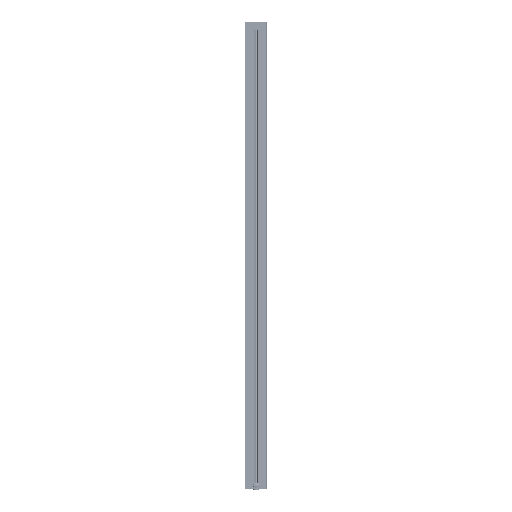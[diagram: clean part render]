
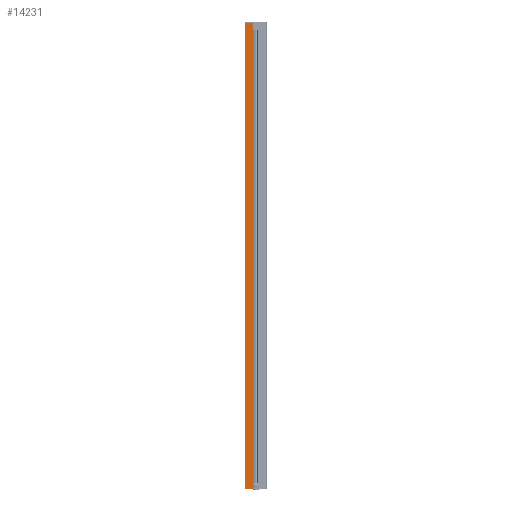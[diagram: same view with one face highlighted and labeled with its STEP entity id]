
A CAD part, left-side view. The second image highlights one B-rep face of the part: STEP entity #14231.
In plain terms, the highlighted planar face has unit normal (-1, 0, 0).
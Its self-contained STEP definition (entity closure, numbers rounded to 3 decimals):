
#2455 = CARTESIAN_POINT ( 'NONE',  ( -16., 8.776, -987.3 ) ) ;
#3113 = DIRECTION ( 'NONE',  ( 0., 1., 0. ) ) ;
#4687 = CARTESIAN_POINT ( 'NONE',  ( -16., 46.5, 1017. ) ) ;
#4765 = VECTOR ( 'NONE', #12847, 1000. ) ;
#4794 = ORIENTED_EDGE ( 'NONE', *, *, #30055, .T. ) ;
#5069 = EDGE_CURVE ( 'NONE', #33399, #11676, #27621, .T. ) ;
#7439 = LINE ( 'NONE', #24710, #26256 ) ;
#8435 = VERTEX_POINT ( 'NONE', #36489 ) ;
#8573 = ORIENTED_EDGE ( 'NONE', *, *, #14966, .F. ) ;
#9397 = VECTOR ( 'NONE', #18032, 1000. ) ;
#9480 = LINE ( 'NONE', #12206, #9397 ) ;
#9649 = ORIENTED_EDGE ( 'NONE', *, *, #21843, .T. ) ;
#9879 = DIRECTION ( 'NONE',  ( 1., 0., 0. ) ) ;
#9960 = CARTESIAN_POINT ( 'NONE',  ( -16., 8.776, 987.3 ) ) ;
#11506 = VECTOR ( 'NONE', #30159, 1000. ) ;
#11676 = VERTEX_POINT ( 'NONE', #26813 ) ;
#12206 = CARTESIAN_POINT ( 'NONE',  ( -16., 13.85, 1017. ) ) ;
#12218 = VERTEX_POINT ( 'NONE', #2455 ) ;
#12256 = ORIENTED_EDGE ( 'NONE', *, *, #29435, .T. ) ;
#12619 = PLANE ( 'NONE',  #16800 ) ;
#12847 = DIRECTION ( 'NONE',  ( 0., 0., -1. ) ) ;
#14231 = ADVANCED_FACE ( 'NONE', ( #29915 ), #12619, .F. ) ;
#14966 = EDGE_CURVE ( 'NONE', #23826, #20323, #26336, .T. ) ;
#15010 = VECTOR ( 'NONE', #37638, 1000. ) ;
#15207 = CARTESIAN_POINT ( 'NONE',  ( -16., 13.85, -1017. ) ) ;
#16183 = VECTOR ( 'NONE', #23940, 1000. ) ;
#16484 = EDGE_CURVE ( 'NONE', #30632, #23826, #9480, .T. ) ;
#16800 = AXIS2_PLACEMENT_3D ( 'NONE', #29726, #9879, #3113 ) ;
#17591 = VECTOR ( 'NONE', #37040, 1000. ) ;
#18032 = DIRECTION ( 'NONE',  ( 0., 0., -1. ) ) ;
#18130 = EDGE_CURVE ( 'NONE', #24624, #30632, #7439, .T. ) ;
#19447 = LINE ( 'NONE', #4687, #4765 ) ;
#20323 = VERTEX_POINT ( 'NONE', #9960 ) ;
#21240 = CARTESIAN_POINT ( 'NONE',  ( -16., 13.85, -987.3 ) ) ;
#21843 = EDGE_CURVE ( 'NONE', #24624, #8435, #19447, .T. ) ;
#22258 = ORIENTED_EDGE ( 'NONE', *, *, #32586, .T. ) ;
#22520 = CARTESIAN_POINT ( 'NONE',  ( -16., 8.776, 1017. ) ) ;
#23826 = VERTEX_POINT ( 'NONE', #35020 ) ;
#23940 = DIRECTION ( 'NONE',  ( 0., -1., 0. ) ) ;
#24624 = VERTEX_POINT ( 'NONE', #34340 ) ;
#24710 = CARTESIAN_POINT ( 'NONE',  ( -16., 8.487, 1017. ) ) ;
#24791 = CARTESIAN_POINT ( 'NONE',  ( -16., 13.85, 1017. ) ) ;
#25543 = CARTESIAN_POINT ( 'NONE',  ( -16., 8.487, -1016.9 ) ) ;
#26256 = VECTOR ( 'NONE', #33301, 1000. ) ;
#26336 = LINE ( 'NONE', #28681, #15010 ) ;
#26813 = CARTESIAN_POINT ( 'NONE',  ( -16., 13.85, -987.3 ) ) ;
#26879 = EDGE_LOOP ( 'NONE', ( #34287, #4794, #12256, #8573, #31800, #35909, #9649, #22258 ) ) ;
#27621 = LINE ( 'NONE', #15207, #11506 ) ;
#27628 = LINE ( 'NONE', #21240, #16183 ) ;
#28468 = LINE ( 'NONE', #25543, #17591 ) ;
#28570 = CARTESIAN_POINT ( 'NONE',  ( -16., 13.85, -1016.9 ) ) ;
#28681 = CARTESIAN_POINT ( 'NONE',  ( -16., 13.85, 987.3 ) ) ;
#29435 = EDGE_CURVE ( 'NONE', #12218, #20323, #29632, .T. ) ;
#29632 = LINE ( 'NONE', #22520, #29820 ) ;
#29726 = CARTESIAN_POINT ( 'NONE',  ( -16., 8.487, 1017. ) ) ;
#29820 = VECTOR ( 'NONE', #34591, 1000. ) ;
#29915 = FACE_OUTER_BOUND ( 'NONE', #26879, .T. ) ;
#30055 = EDGE_CURVE ( 'NONE', #11676, #12218, #27628, .T. ) ;
#30159 = DIRECTION ( 'NONE',  ( 0., 0., 1. ) ) ;
#30632 = VERTEX_POINT ( 'NONE', #24791 ) ;
#31800 = ORIENTED_EDGE ( 'NONE', *, *, #16484, .F. ) ;
#32586 = EDGE_CURVE ( 'NONE', #8435, #33399, #28468, .T. ) ;
#33301 = DIRECTION ( 'NONE',  ( 0., -1., 0. ) ) ;
#33399 = VERTEX_POINT ( 'NONE', #28570 ) ;
#34287 = ORIENTED_EDGE ( 'NONE', *, *, #5069, .T. ) ;
#34340 = CARTESIAN_POINT ( 'NONE',  ( -16., 46.5, 1017. ) ) ;
#34591 = DIRECTION ( 'NONE',  ( 0., 0., 1. ) ) ;
#35020 = CARTESIAN_POINT ( 'NONE',  ( -16., 13.85, 987.3 ) ) ;
#35909 = ORIENTED_EDGE ( 'NONE', *, *, #18130, .F. ) ;
#36489 = CARTESIAN_POINT ( 'NONE',  ( -16., 46.5, -1016.9 ) ) ;
#37040 = DIRECTION ( 'NONE',  ( 0., -1., 0. ) ) ;
#37638 = DIRECTION ( 'NONE',  ( 0., -1., 0. ) ) ;
